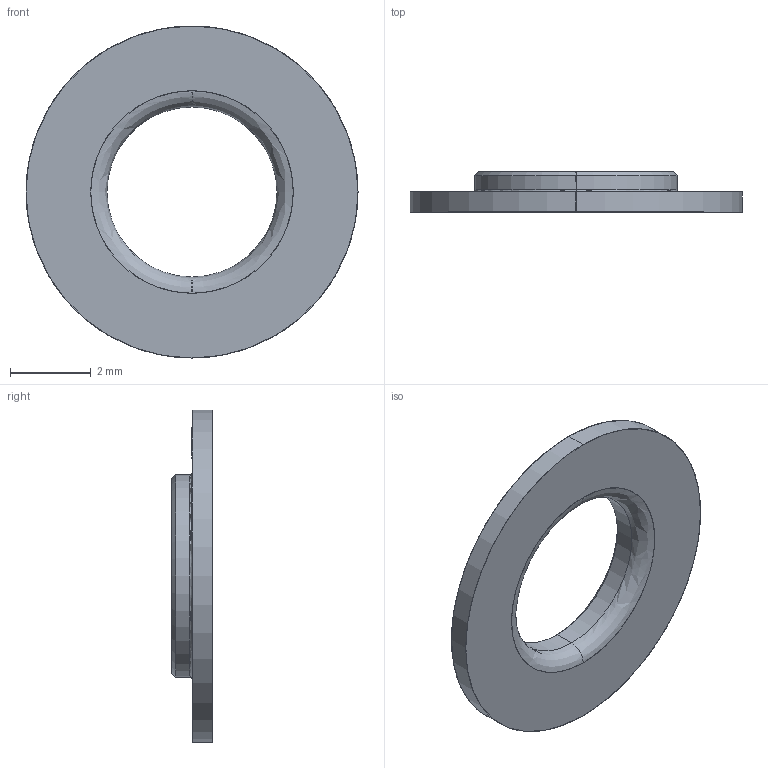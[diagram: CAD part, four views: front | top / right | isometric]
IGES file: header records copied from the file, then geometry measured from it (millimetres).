
Start section: SolidWorks IGES file using analytic representation for surfaces
Bounding box: 8.2 x 1 x 8.2 mm (x, y, z)
Surface area: 107.6 mm2 (no closed solid volume)
Topology: 0 solids, 0 shells, 17 faces, 248 edges, 248 vertices
Faces by surface type: revolution 10, bspline 7
